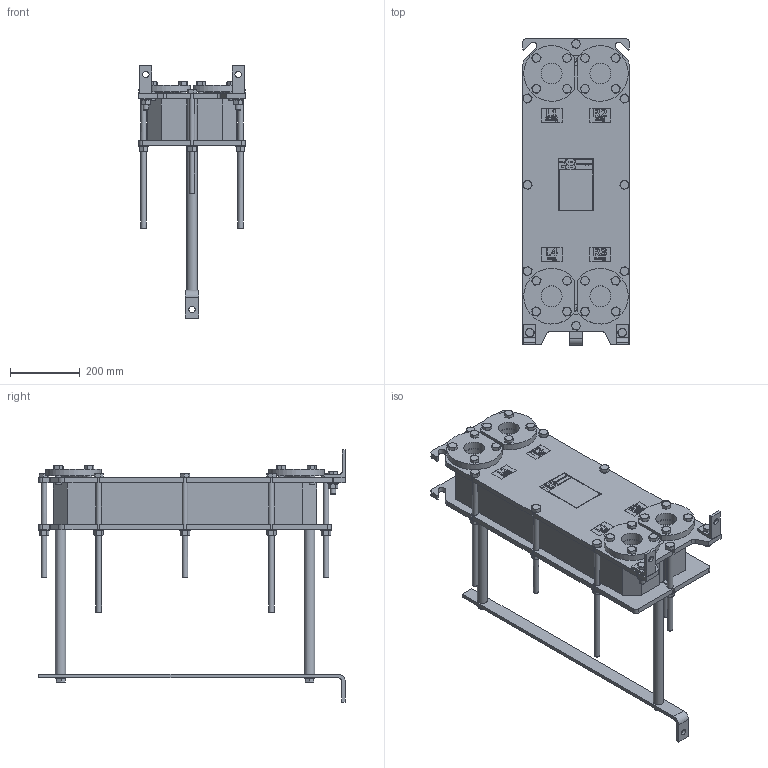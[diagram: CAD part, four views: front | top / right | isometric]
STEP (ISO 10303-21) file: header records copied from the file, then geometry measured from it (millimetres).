
FILE_DESCRIPTION (( 'STEP AP214' ), '1' );
FILE_NAME ('ÏÒ S50 ðåä7 10áàð ê ñèãìà 44...70.STEP', '2021-04-21T20:32:28', ( '' ), ( '' ), 'SwSTEP 2.0', 'SolidWorks 2018', '' );
FILE_SCHEMA (( 'AUTOMOTIVE_DESIGN' ));
Length unit declared in the file: millimetre
Products named in the file (3): ÏÒ S50 ðåä7 10áàð ê ñèãìà1; ÏÒ S50 ðåä7 10áàð ê ñèãìà 44...70; ÏÒ S50 ðåä7 10áàð ê ñèãìà2 44...70
Assembly tree (2 placements, depth 2):
  ÏÒ S50 ðåä7 10áàð ê ñèãìà 44...70
    ÏÒ S50 ðåä7 10áàð ê ñèãìà2 44...70
    ÏÒ S50 ðåä7 10áàð ê ñèãìà1
Bounding box: 308.99 x 880 x 725 mm (x, y, z)
Volume: 32016104.8 mm3; surface area: 2431244.4 mm2
Topology: 30 solids, 36 shells, 1958 faces, 4778 edges, 3047 vertices
Faces by surface type: plane 1034, cone 416, bspline 275, cylinder 211, torus 22
Full cylindrical faces by diameter (mm): 16 x62, 17 x12, 18 x23, 29.48 x2, 30 x16, 60 x12, 60.01 x4, 101 x4
Entity records: 86216 total; most frequent: CARTESIAN_POINT 22848, ORIENTED_EDGE 8920, DIRECTION 7488, EDGE_CURVE 4460, VERTEX_POINT 2966, AXIS2_PLACEMENT_3D 2562, EDGE_LOOP 2444, VECTOR 2364
